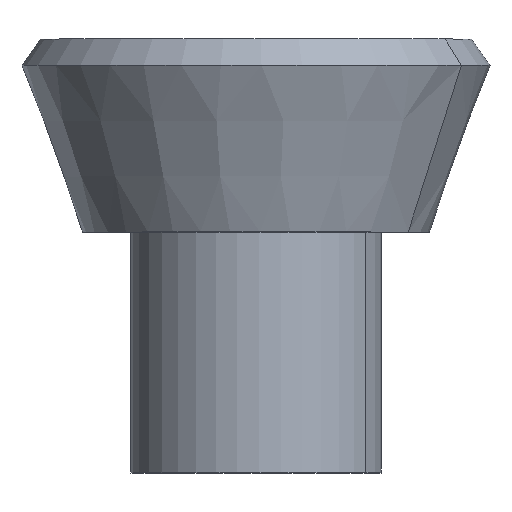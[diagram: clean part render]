
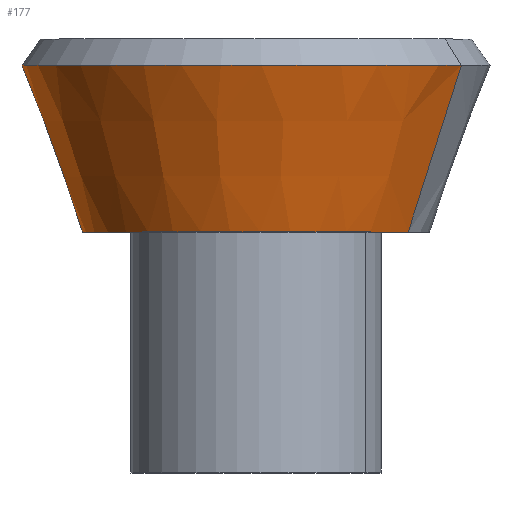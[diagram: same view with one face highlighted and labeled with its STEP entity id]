
A CAD part, top view. The second image highlights one B-rep face of the part: STEP entity #177.
In plain terms, the highlighted conical face has half-angle 20 degrees and reference radius 108 mm.
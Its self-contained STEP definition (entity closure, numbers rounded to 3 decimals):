
#114=CARTESIAN_POINT('Axis2P3D Location',(0.,0.,0.)) ;
#118=CARTESIAN_POINT('Vertex',(94.779,0.,51.778)) ;
#120=CARTESIAN_POINT('Vertex',(-94.779,0.,-51.778)) ;
#147=CARTESIAN_POINT('Axis2P3D Location',(0.,0.,0.)) ;
#152=CARTESIAN_POINT('Line Origine',(111.372,51.949,60.843)) ;
#156=CARTESIAN_POINT('Vertex',(127.965,103.898,69.908)) ;
#159=CARTESIAN_POINT('Axis2P3D Location',(0.,103.898,0.)) ;
#163=CARTESIAN_POINT('Vertex',(-127.965,103.898,-69.908)) ;
#166=CARTESIAN_POINT('Line Origine',(-111.372,51.949,-60.843)) ;
#115=DIRECTION('Axis2P3D Direction',(0.,-1.,0.)) ;
#148=DIRECTION('Axis2P3D Direction',(-0.,1.,-0.)) ;
#149=DIRECTION('Axis2P3D XDirection',(0.878,0.,0.479)) ;
#153=DIRECTION('Vector Direction',(0.3,0.94,0.164)) ;
#160=DIRECTION('Axis2P3D Direction',(0.,1.,-0.)) ;
#167=DIRECTION('Vector Direction',(-0.3,0.94,-0.164)) ;
#116=AXIS2_PLACEMENT_3D('Circle Axis2P3D',#114,#115,$) ;
#150=AXIS2_PLACEMENT_3D('Cone Axis2P3D',#147,#148,#149) ;
#161=AXIS2_PLACEMENT_3D('Circle Axis2P3D',#159,#160,$) ;
#172=ORIENTED_EDGE('',*,*,#122,.F.) ;
#173=ORIENTED_EDGE('',*,*,#158,.T.) ;
#174=ORIENTED_EDGE('',*,*,#165,.T.) ;
#175=ORIENTED_EDGE('',*,*,#170,.F.) ;
#154=VECTOR('Line Direction',#153,1.) ;
#168=VECTOR('Line Direction',#167,1.) ;
#177=ADVANCED_FACE('PartBody',(#176),#151,.T.) ;
#117=CIRCLE('generated circle',#116,108.) ;
#162=CIRCLE('generated circle',#161,145.816) ;
#151=CONICAL_SURFACE('Cone',#150,108.,0.349) ;
#122=EDGE_CURVE('',#119,#121,#117,.T.) ;
#158=EDGE_CURVE('',#119,#157,#155,.T.) ;
#165=EDGE_CURVE('',#157,#164,#162,.F.) ;
#170=EDGE_CURVE('',#121,#164,#169,.T.) ;
#171=EDGE_LOOP('',(#172,#173,#174,#175)) ;
#176=FACE_OUTER_BOUND('',#171,.T.) ;
#155=LINE('Line',#152,#154) ;
#169=LINE('Line',#166,#168) ;
#119=VERTEX_POINT('',#118) ;
#121=VERTEX_POINT('',#120) ;
#157=VERTEX_POINT('',#156) ;
#164=VERTEX_POINT('',#163) ;
